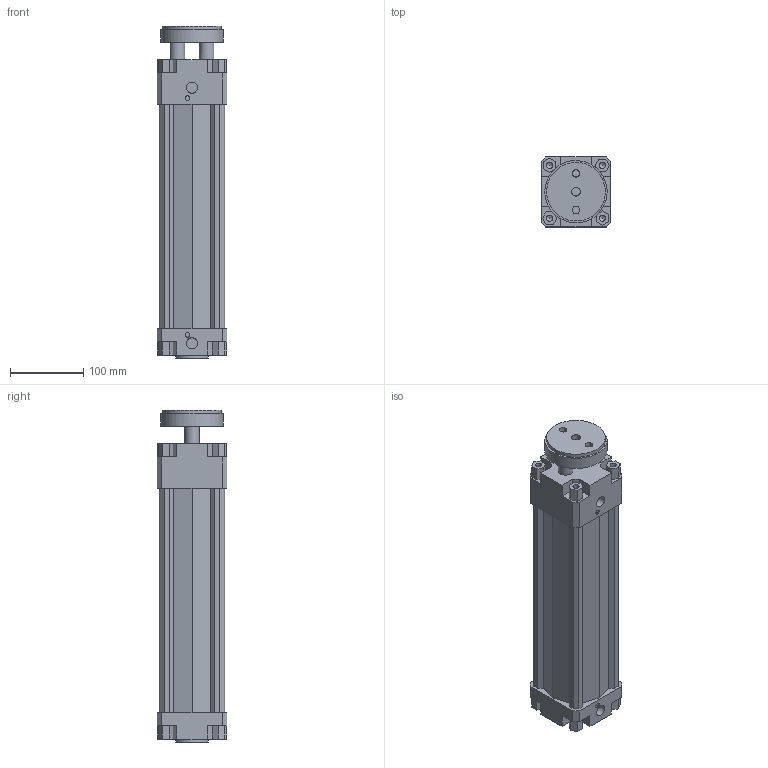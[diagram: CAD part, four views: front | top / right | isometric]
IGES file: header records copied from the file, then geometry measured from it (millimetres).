
Global section: file name: 134#_080_0250_01; native system: Autodesk Inventor 2014; preprocessor: unknown; author: A. Manieri; date: 20161006.165211; units: millimetre
Bounding box: 95 x 95 x 453 mm (x, y, z)
Volume: 1939830.3 mm3; surface area: 360637 mm2
Topology: 2 solids, 2 shells, 180 faces, 491 edges, 335 vertices
Faces by surface type: bspline 180
